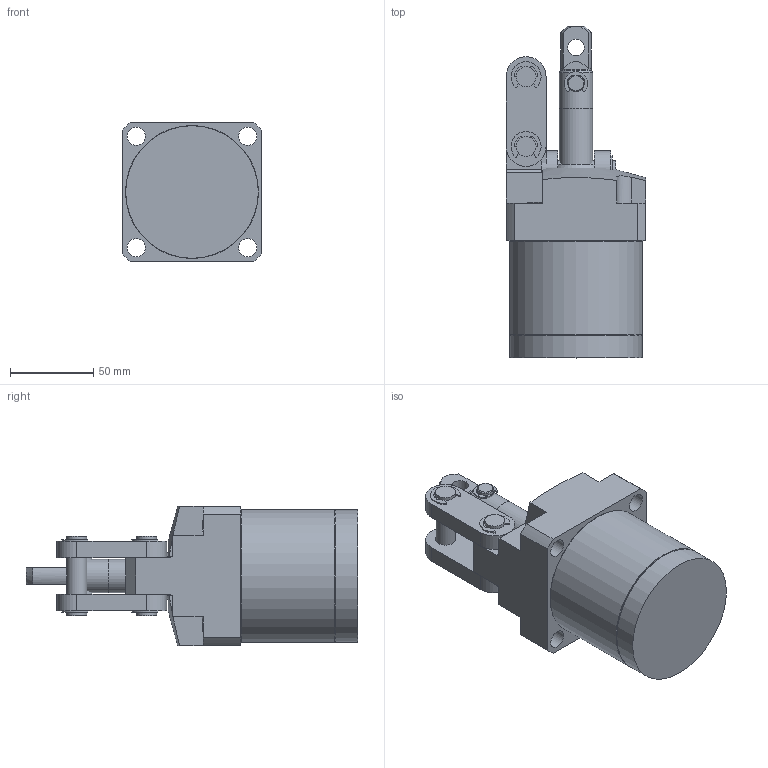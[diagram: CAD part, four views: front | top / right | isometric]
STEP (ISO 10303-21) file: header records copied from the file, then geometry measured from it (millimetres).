
FILE_DESCRIPTION( ( '' ), '1' );
FILE_NAME( 'W:/Catalogue/JL5H/JL5H52-34K/JL5H52-34K.stp', '2008-05-26T02:11:25', ( '機械事業部産業機器グループ' ), ( '豊和工業株式会社' ), 'XStep 1.0', ' ', ' ' );
FILE_SCHEMA( ( 'CONFIG_CONTROL_DESIGN' ) );
Length unit declared in the file: millimetre
Products named in the file (5): Assem1; 1; 2; 3; 4
Bounding box: 84 x 199.5 x 84 mm (x, y, z)
Volume: 1193684.4 mm3; surface area: 188715.5 mm2
Topology: 8 solids, 12 shells, 510 faces, 1328 edges, 870 vertices
Faces by surface type: plane 262, cylinder 214, cone 32, torus 2
Full cylindrical faces by diameter (mm): 2 x2, 6.8 x2, 7 x4, 9 x8, 10 x8, 11 x12, 12 x14, 18.5 x2, 20 x4, 22 x2, 27 x2, 32 x4, 52 x4, 79 x4, 79.7 x2, 80 x2
Entity records: 7853 total; most frequent: CARTESIAN_POINT 1435, DIRECTION 1367, ORIENTED_EDGE 1182, EDGE_CURVE 591, AXIS2_PLACEMENT_3D 537, VERTEX_POINT 417, EDGE_LOOP 345, FACE_OUTER_BOUND 294
